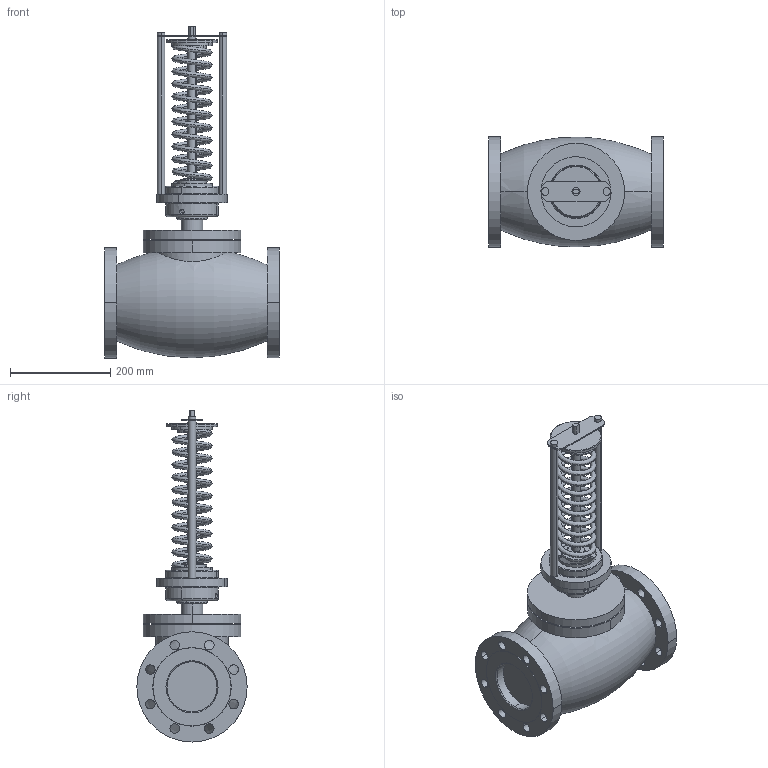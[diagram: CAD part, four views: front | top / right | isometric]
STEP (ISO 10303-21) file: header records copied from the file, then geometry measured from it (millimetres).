
FILE_DESCRIPTION (( 'STEP AP214' ), '1' );
FILE_NAME ('RDT, RDT-B DN-100.STEP', '2025-12-12T06:16:57', ( '' ), ( '' ), 'SwSTEP 2.0', 'SolidWorks 2023', '' );
FILE_SCHEMA (( 'AUTOMOTIVE_DESIGN' ));
Length unit declared in the file: millimetre
Products named in the file (1): RDT, RDT-B DN-100
Bounding box: 350 x 220 x 662.5 mm (x, y, z)
Volume: 13206411.3 mm3; surface area: 652309.3 mm2
Topology: 1 solids, 1 shells, 160 faces, 381 edges, 243 vertices
Faces by surface type: cylinder 91, plane 39, cone 14, torus 10, bspline 6
Entity records: 9916 total; most frequent: CARTESIAN_POINT 5977, DIRECTION 890, ORIENTED_EDGE 758, AXIS2_PLACEMENT_3D 380, EDGE_CURVE 379, VERTEX_POINT 242, CIRCLE 225, EDGE_LOOP 219
